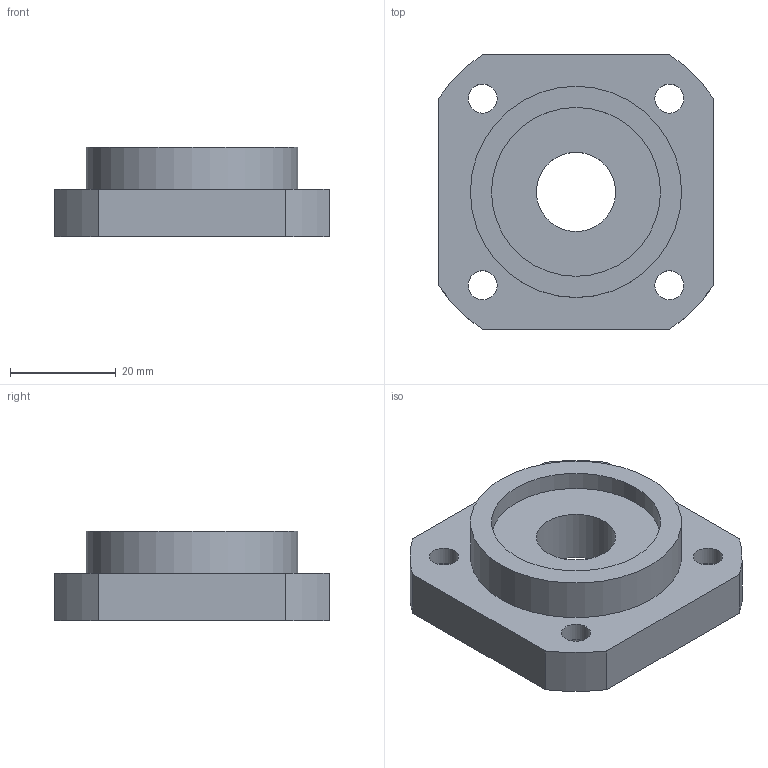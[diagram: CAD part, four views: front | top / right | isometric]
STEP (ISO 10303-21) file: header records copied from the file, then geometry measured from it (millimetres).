
FILE_DESCRIPTION(/* description */ (''),/* implementation_level */ '2;1');
FILE_NAME(/* name */ 'C:\Users\tenki620635\Desktop\官網\圖面\軸承座\3D\setp檔\FF15.stp',/* time_stamp */ '2020-11-23T14:55:47+08:00',/* author */ ('tenki620635'),/* organization */ (''),/* preprocessor_version */ 'ST-DEVELOPER v15.2',/* originating_system */ 'Autodesk Inventor 2014',/* authorisation */ '');
FILE_SCHEMA (('AUTOMOTIVE_DESIGN { 1 0 10303 214 3 1 1 }'));
Length unit declared in the file: millimetre
Products named in the file (1): FF15
Bounding box: 52 x 52 x 17 mm (x, y, z)
Volume: 24036 mm3; surface area: 9407.9 mm2
Topology: 1 solids, 1 shells, 29 faces, 60 edges, 40 vertices
Faces by surface type: cylinder 16, plane 13
Full cylindrical faces by diameter (mm): 5.5 x4, 9.5 x4, 15 x1, 32 x2, 40 x1
Entity records: 767 total; most frequent: DIRECTION 140, CARTESIAN_POINT 118, ORIENTED_EDGE 96, AXIS2_PLACEMENT_3D 62, EDGE_LOOP 58, EDGE_CURVE 48, VERTEX_POINT 40, FACE_BOUND 34
